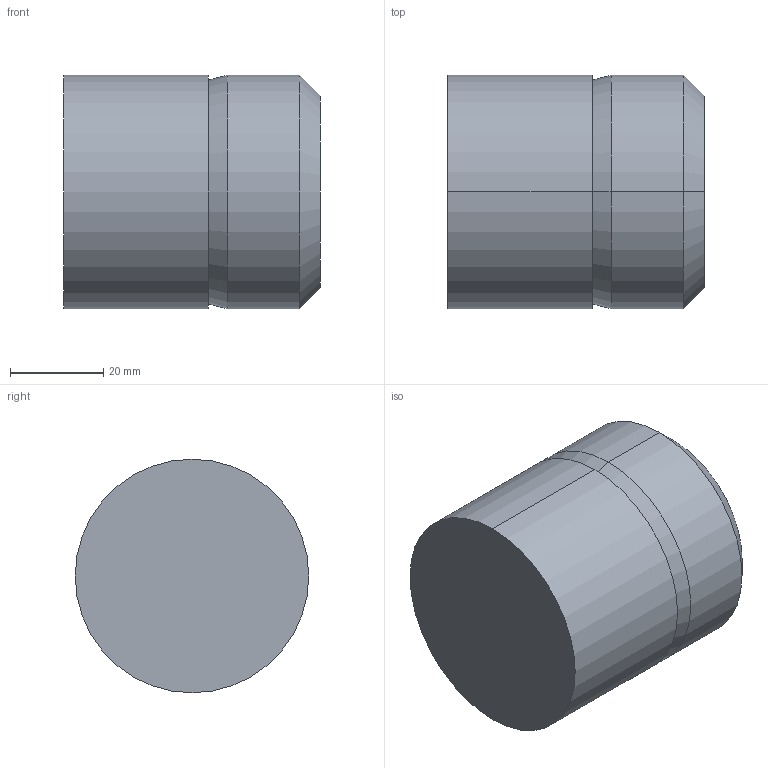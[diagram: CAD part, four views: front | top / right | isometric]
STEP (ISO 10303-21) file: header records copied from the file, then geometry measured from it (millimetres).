
FILE_DESCRIPTION (( 'STEP AP203' ), '1' );
FILE_NAME ('S3-50.STEP', '2002-08-16T10:49:30', ( '.' ), ( '.' ), 'SwSTEP 2.0', 'SolidWorks 2001340', '' );
FILE_SCHEMA (( 'CONFIG_CONTROL_DESIGN' ));
Length unit declared in the file: millimetre
Products named in the file (1): S3-50
Bounding box: 55 x 50 x 50 mm (x, y, z)
Volume: 106165.3 mm3; surface area: 12298.9 mm2
Topology: 1 solids, 1 shells, 11 faces, 20 edges, 12 vertices
Faces by surface type: cylinder 4, cone 4, plane 3
Entity records: 351 total; most frequent: DIRECTION 56, CARTESIAN_POINT 44, ORIENTED_EDGE 40, AXIS2_PLACEMENT_3D 24, EDGE_CURVE 20, VERTEX_POINT 12, EDGE_LOOP 12, CIRCLE 12
